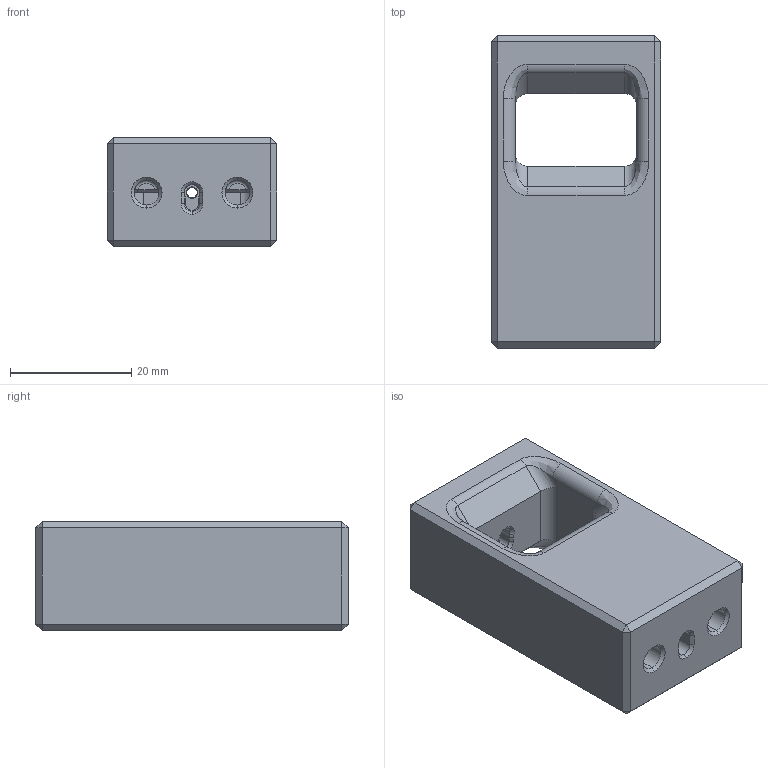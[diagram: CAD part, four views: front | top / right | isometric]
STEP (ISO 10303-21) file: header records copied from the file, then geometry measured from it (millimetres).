
FILE_DESCRIPTION (( 'STEP AP214' ), '1' );
FILE_NAME ('TRL-0045-A.STEP', '2021-06-25T20:22:11', ( '' ), ( '' ), 'SwSTEP 2.0', 'SolidWorks 2016', '' );
FILE_SCHEMA (( 'AUTOMOTIVE_DESIGN' ));
Length unit declared in the file: millimetre
Products named in the file (1): TRL-0045-A
Bounding box: 28 x 51.52 x 18 mm (x, y, z)
Volume: 16646.6 mm3; surface area: 6691.9 mm2
Topology: 1 solids, 1 shells, 135 faces, 326 edges, 191 vertices
Faces by surface type: plane 54, cylinder 42, cone 23, bspline 10, torus 6
Entity records: 4279 total; most frequent: CARTESIAN_POINT 1223, ORIENTED_EDGE 652, DIRECTION 609, EDGE_CURVE 326, AXIS2_PLACEMENT_3D 213, VERTEX_POINT 191, LINE 183, VECTOR 183
